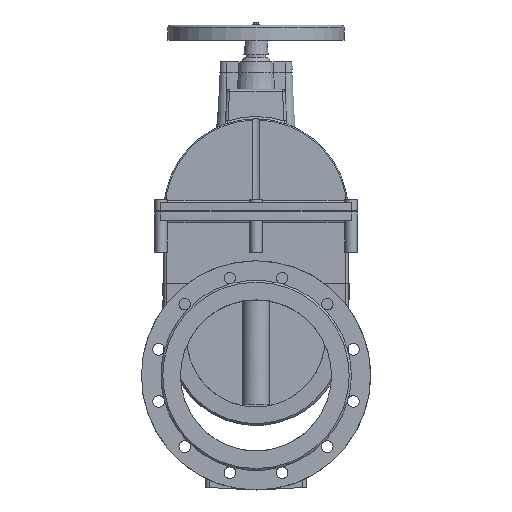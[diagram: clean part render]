
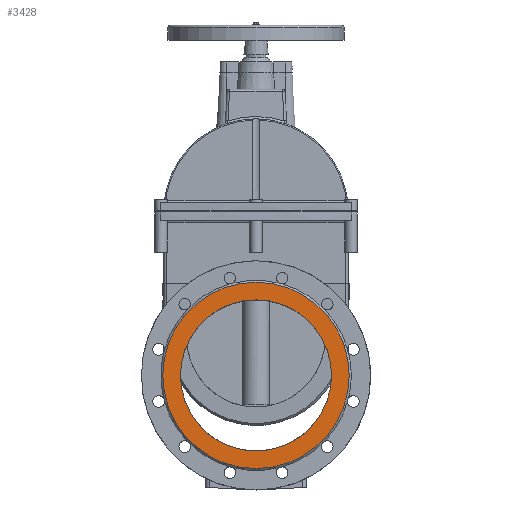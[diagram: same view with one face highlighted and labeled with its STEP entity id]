
A CAD part, left-side view. The second image highlights one B-rep face of the part: STEP entity #3428.
In plain terms, the highlighted planar face has unit normal (-1, 0, 0).
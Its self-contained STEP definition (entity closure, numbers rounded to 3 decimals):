
#3428=ADVANCED_FACE('',(#8390,#8392),#8394,.T.);
#8390=FACE_BOUND('',#8391,.T.);
#8391=EDGE_LOOP('',(#17875));
#8392=FACE_BOUND('',#8393,.T.);
#8393=EDGE_LOOP('',(#17876));
#8394=PLANE('',#8395);
#8395=AXIS2_PLACEMENT_3D('',#8396,#8397,#8398);
#8396=CARTESIAN_POINT('',(-135.,0.,0.));
#8397=DIRECTION('',(-1.,0.,0.));
#8398=DIRECTION('',(0.,-1.,0.));
#17875=ORIENTED_EDGE('',*,*,#20703,.T.);
#17876=ORIENTED_EDGE('',*,*,#20719,.T.);
#20703=EDGE_CURVE('',#23593,#23593,#23594,.T.);
#20719=EDGE_CURVE('',#23613,#23613,#23614,.F.);
#23593=VERTEX_POINT('',#33712);
#23594=CIRCLE('',#33713,185.);
#23613=VERTEX_POINT('',#33780);
#23614=CIRCLE('',#33781,150.);
#33712=CARTESIAN_POINT('',(-135.,-185.,0.));
#33713=AXIS2_PLACEMENT_3D('',#33714,#33715,#33716);
#33714=CARTESIAN_POINT('',(-135.,0.,0.));
#33715=DIRECTION('',(-1.,0.,0.));
#33716=DIRECTION('',(0.,-1.,0.));
#33780=CARTESIAN_POINT('',(-135.,150.,0.));
#33781=AXIS2_PLACEMENT_3D('',#33782,#33783,#33784);
#33782=CARTESIAN_POINT('',(-135.,0.,0.));
#33783=DIRECTION('',(-1.,0.,0.));
#33784=DIRECTION('',(0.,-1.,0.));
